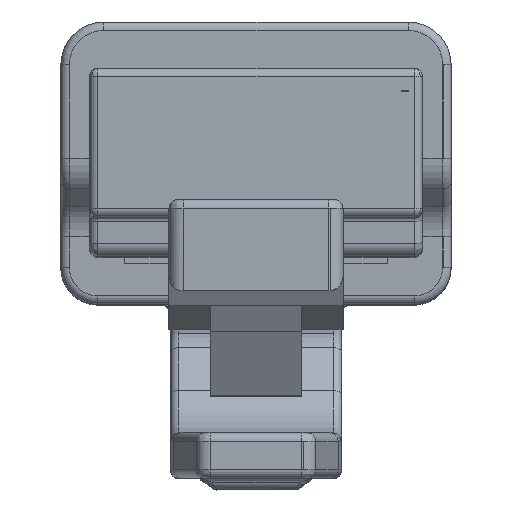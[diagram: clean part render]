
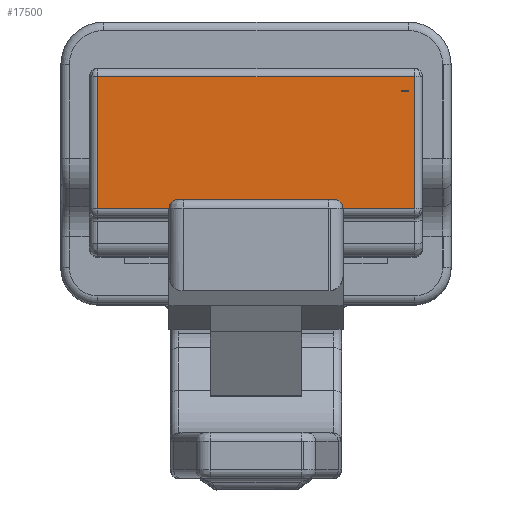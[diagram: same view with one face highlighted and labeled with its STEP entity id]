
A CAD part, top view. The second image highlights one B-rep face of the part: STEP entity #17500.
In plain terms, the highlighted planar face has unit normal (0, 0, 1).
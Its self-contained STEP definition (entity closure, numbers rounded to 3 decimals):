
#144 = LINE ( 'NONE', #10524, #13238 ) ;
#186 = DIRECTION ( 'NONE',  ( 0., -1., 0. ) ) ;
#221 = LINE ( 'NONE', #17458, #19216 ) ;
#275 = LINE ( 'NONE', #8816, #20620 ) ;
#879 = CARTESIAN_POINT ( 'NONE',  ( 5.09, 2.5, 149. ) ) ;
#1029 = VERTEX_POINT ( 'NONE', #27672 ) ;
#1315 = CARTESIAN_POINT ( 'NONE',  ( 5.54, 18.245, 149. ) ) ;
#2126 = ORIENTED_EDGE ( 'NONE', *, *, #13873, .T. ) ;
#2152 = CIRCLE ( 'NONE', #17815, 0.3 ) ;
#2349 = ORIENTED_EDGE ( 'NONE', *, *, #22160, .T. ) ;
#2396 = CARTESIAN_POINT ( 'NONE',  ( 5.54, -1.63, 149. ) ) ;
#2993 = CARTESIAN_POINT ( 'NONE',  ( 3.05, 2.5, 149. ) ) ;
#3873 = ORIENTED_EDGE ( 'NONE', *, *, #19005, .T. ) ;
#3889 = EDGE_CURVE ( 'NONE', #13936, #5237, #5283, .T. ) ;
#4079 = CARTESIAN_POINT ( 'NONE',  ( 5.09, 2.506, 149. ) ) ;
#4361 = DIRECTION ( 'NONE',  ( 1., 0., 0. ) ) ;
#4553 = CARTESIAN_POINT ( 'NONE',  ( 5.54, 3., 149. ) ) ;
#5237 = VERTEX_POINT ( 'NONE', #19405 ) ;
#5283 = B_SPLINE_CURVE_WITH_KNOTS ( 'NONE', 3,
 ( #12773, #27187, #27330, #4079 ),
 .UNSPECIFIED., .F., .F.,
 ( 4, 4 ),
 ( 0., 1. ),
 .UNSPECIFIED. ) ;
#5514 = DIRECTION ( 'NONE',  ( 0., 0., -1. ) ) ;
#6123 = ORIENTED_EDGE ( 'NONE', *, *, #12357, .T. ) ;
#6411 = CARTESIAN_POINT ( 'NONE',  ( 5.34, 2.506, 149. ) ) ;
#6810 = CARTESIAN_POINT ( 'NONE',  ( 5.34, 2.506, 149. ) ) ;
#7428 = ORIENTED_EDGE ( 'NONE', *, *, #15776, .T. ) ;
#7434 = ORIENTED_EDGE ( 'NONE', *, *, #17948, .T. ) ;
#8073 = CIRCLE ( 'NONE', #12139, 0.3 ) ;
#8396 = CARTESIAN_POINT ( 'NONE',  ( 5.34, 2.5, 149. ) ) ;
#8517 = CARTESIAN_POINT ( 'NONE',  ( 5.34, 2.506, 149. ) ) ;
#8668 = EDGE_CURVE ( 'NONE', #16386, #13936, #144, .T. ) ;
#8816 = CARTESIAN_POINT ( 'NONE',  ( -5.89, -1.3, 149. ) ) ;
#9139 = CARTESIAN_POINT ( 'NONE',  ( -3.05, -1.6, 149. ) ) ;
#9916 = DIRECTION ( 'NONE',  ( 0., 0., -1. ) ) ;
#10026 = CARTESIAN_POINT ( 'NONE',  ( -5.54, -1.63, 149. ) ) ;
#10142 = DIRECTION ( 'NONE',  ( 0., 1., 0. ) ) ;
#10308 = ORIENTED_EDGE ( 'NONE', *, *, #20623, .T. ) ;
#10323 = CARTESIAN_POINT ( 'NONE',  ( -5.54, -23.11, 149. ) ) ;
#10524 = CARTESIAN_POINT ( 'NONE',  ( -5.89, 2.5, 149. ) ) ;
#10908 = CARTESIAN_POINT ( 'NONE',  ( 5.09, 2.506, 149. ) ) ;
#11160 = LINE ( 'NONE', #19686, #19681 ) ;
#11358 = DIRECTION ( 'NONE',  ( -1., 0., 0. ) ) ;
#12021 = LINE ( 'NONE', #26425, #12441 ) ;
#12139 = AXIS2_PLACEMENT_3D ( 'NONE', #16169, #5514, #4361 ) ;
#12357 = EDGE_CURVE ( 'NONE', #1029, #25735, #2152, .T. ) ;
#12441 = VECTOR ( 'NONE', #18040, 1000. ) ;
#12773 = CARTESIAN_POINT ( 'NONE',  ( 5.09, 2.5, 149. ) ) ;
#13044 = VERTEX_POINT ( 'NONE', #9139 ) ;
#13201 = CARTESIAN_POINT ( 'NONE',  ( -5.54, 3., 149. ) ) ;
#13238 = VECTOR ( 'NONE', #19050, 1000. ) ;
#13873 = EDGE_CURVE ( 'NONE', #25735, #20512, #22148, .T. ) ;
#13936 = VERTEX_POINT ( 'NONE', #879 ) ;
#14009 = FACE_OUTER_BOUND ( 'NONE', #19889, .T. ) ;
#14365 = AXIS2_PLACEMENT_3D ( 'NONE', #24618, #26588, #11358 ) ;
#14713 = EDGE_CURVE ( 'NONE', #21513, #13044, #221, .T. ) ;
#14716 = EDGE_CURVE ( 'NONE', #20512, #21503, #11160, .T. ) ;
#15218 = DIRECTION ( 'NONE',  ( 0., 1., 0. ) ) ;
#15492 = DIRECTION ( 'NONE',  ( 1., 0., 0. ) ) ;
#15607 = VERTEX_POINT ( 'NONE', #4553 ) ;
#15776 = EDGE_CURVE ( 'NONE', #21503, #15607, #20491, .T. ) ;
#15790 = ORIENTED_EDGE ( 'NONE', *, *, #14713, .T. ) ;
#15835 = FACE_BOUND ( 'NONE', #23182, .T. ) ;
#16169 = CARTESIAN_POINT ( 'NONE',  ( -2.75, -1.6, 149. ) ) ;
#16218 = LINE ( 'NONE', #10323, #25492 ) ;
#16247 = B_SPLINE_CURVE_WITH_KNOTS ( 'NONE', 3,
 ( #8517, #25580, #16786, #23481 ),
 .UNSPECIFIED., .F., .F.,
 ( 4, 4 ),
 ( 0., 1. ),
 .UNSPECIFIED. ) ;
#16353 = LINE ( 'NONE', #20405, #17927 ) ;
#16386 = VERTEX_POINT ( 'NONE', #8396 ) ;
#16786 = CARTESIAN_POINT ( 'NONE',  ( 5.34, 2.502, 149. ) ) ;
#17008 = VERTEX_POINT ( 'NONE', #17024 ) ;
#17024 = CARTESIAN_POINT ( 'NONE',  ( -2.75, -1.3, 149. ) ) ;
#17364 = DIRECTION ( 'NONE',  ( 1., 0., 0. ) ) ;
#17458 = CARTESIAN_POINT ( 'NONE',  ( -3.05, 2.5, 149. ) ) ;
#17500 = ADVANCED_FACE ( 'NONE', ( #14009, #15835 ), #24348, .F. ) ;
#17617 = CARTESIAN_POINT ( 'NONE',  ( 5.173, 2.506, 149. ) ) ;
#17815 = AXIS2_PLACEMENT_3D ( 'NONE', #18581, #9916, #26977 ) ;
#17927 = VECTOR ( 'NONE', #18453, 1000. ) ;
#17939 = CARTESIAN_POINT ( 'NONE',  ( -3.05, -1.63, 149. ) ) ;
#17948 = EDGE_CURVE ( 'NONE', #25489, #22714, #16218, .T. ) ;
#18040 = DIRECTION ( 'NONE',  ( -1., 0., 0. ) ) ;
#18453 = DIRECTION ( 'NONE',  ( 1., 0., 0. ) ) ;
#18581 = CARTESIAN_POINT ( 'NONE',  ( 2.75, -1.6, 149. ) ) ;
#18634 = EDGE_CURVE ( 'NONE', #17008, #1029, #275, .T. ) ;
#18829 = VECTOR ( 'NONE', #10142, 1000. ) ;
#19005 = EDGE_CURVE ( 'NONE', #5237, #22400, #25994, .T. ) ;
#19050 = DIRECTION ( 'NONE',  ( -1., 0., 0. ) ) ;
#19216 = VECTOR ( 'NONE', #15218, 1000. ) ;
#19305 = ORIENTED_EDGE ( 'NONE', *, *, #3889, .T. ) ;
#19405 = CARTESIAN_POINT ( 'NONE',  ( 5.09, 2.506, 149. ) ) ;
#19681 = VECTOR ( 'NONE', #15492, 1000. ) ;
#19686 = CARTESIAN_POINT ( 'NONE',  ( -5.89, -1.63, 149. ) ) ;
#19740 = EDGE_CURVE ( 'NONE', #15607, #25489, #12021, .T. ) ;
#19889 = EDGE_LOOP ( 'NONE', ( #27668, #7428, #25792, #7434, #2349, #15790, #24545, #23603, #6123, #2126 ) ) ;
#20405 = CARTESIAN_POINT ( 'NONE',  ( -5.89, -1.63, 149. ) ) ;
#20491 = LINE ( 'NONE', #1315, #18829 ) ;
#20512 = VERTEX_POINT ( 'NONE', #26034 ) ;
#20620 = VECTOR ( 'NONE', #17364, 1000. ) ;
#20623 = EDGE_CURVE ( 'NONE', #22400, #16386, #16247, .T. ) ;
#21129 = CARTESIAN_POINT ( 'NONE',  ( 3.05, -1.6, 149. ) ) ;
#21422 = VECTOR ( 'NONE', #186, 1000. ) ;
#21503 = VERTEX_POINT ( 'NONE', #2396 ) ;
#21513 = VERTEX_POINT ( 'NONE', #17939 ) ;
#22148 = LINE ( 'NONE', #2993, #21422 ) ;
#22160 = EDGE_CURVE ( 'NONE', #22714, #21513, #16353, .T. ) ;
#22400 = VERTEX_POINT ( 'NONE', #6810 ) ;
#22714 = VERTEX_POINT ( 'NONE', #10026 ) ;
#22758 = DIRECTION ( 'NONE',  ( 0., -1., 0. ) ) ;
#23003 = EDGE_CURVE ( 'NONE', #13044, #17008, #8073, .T. ) ;
#23182 = EDGE_LOOP ( 'NONE', ( #3873, #10308, #25113, #19305 ) ) ;
#23481 = CARTESIAN_POINT ( 'NONE',  ( 5.34, 2.5, 149. ) ) ;
#23603 = ORIENTED_EDGE ( 'NONE', *, *, #18634, .T. ) ;
#24348 = PLANE ( 'NONE',  #14365 ) ;
#24545 = ORIENTED_EDGE ( 'NONE', *, *, #23003, .T. ) ;
#24618 = CARTESIAN_POINT ( 'NONE',  ( -5.89, 2.5, 149. ) ) ;
#25113 = ORIENTED_EDGE ( 'NONE', *, *, #8668, .T. ) ;
#25489 = VERTEX_POINT ( 'NONE', #13201 ) ;
#25492 = VECTOR ( 'NONE', #22758, 1000. ) ;
#25580 = CARTESIAN_POINT ( 'NONE',  ( 5.34, 2.504, 149. ) ) ;
#25735 = VERTEX_POINT ( 'NONE', #21129 ) ;
#25792 = ORIENTED_EDGE ( 'NONE', *, *, #19740, .T. ) ;
#25994 = B_SPLINE_CURVE_WITH_KNOTS ( 'NONE', 3,
 ( #10908, #17617, #26128, #6411 ),
 .UNSPECIFIED., .F., .F.,
 ( 4, 4 ),
 ( 0., 1. ),
 .UNSPECIFIED. ) ;
#26034 = CARTESIAN_POINT ( 'NONE',  ( 3.05, -1.63, 149. ) ) ;
#26128 = CARTESIAN_POINT ( 'NONE',  ( 5.257, 2.506, 149. ) ) ;
#26425 = CARTESIAN_POINT ( 'NONE',  ( -5.89, 3., 149. ) ) ;
#26588 = DIRECTION ( 'NONE',  ( 0., 0., -1. ) ) ;
#26977 = DIRECTION ( 'NONE',  ( -1., 0., 0. ) ) ;
#27187 = CARTESIAN_POINT ( 'NONE',  ( 5.09, 2.502, 149. ) ) ;
#27330 = CARTESIAN_POINT ( 'NONE',  ( 5.09, 2.504, 149. ) ) ;
#27668 = ORIENTED_EDGE ( 'NONE', *, *, #14716, .T. ) ;
#27672 = CARTESIAN_POINT ( 'NONE',  ( 2.75, -1.3, 149. ) ) ;
